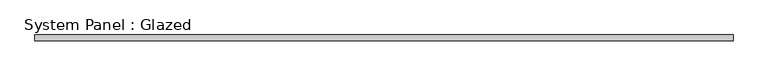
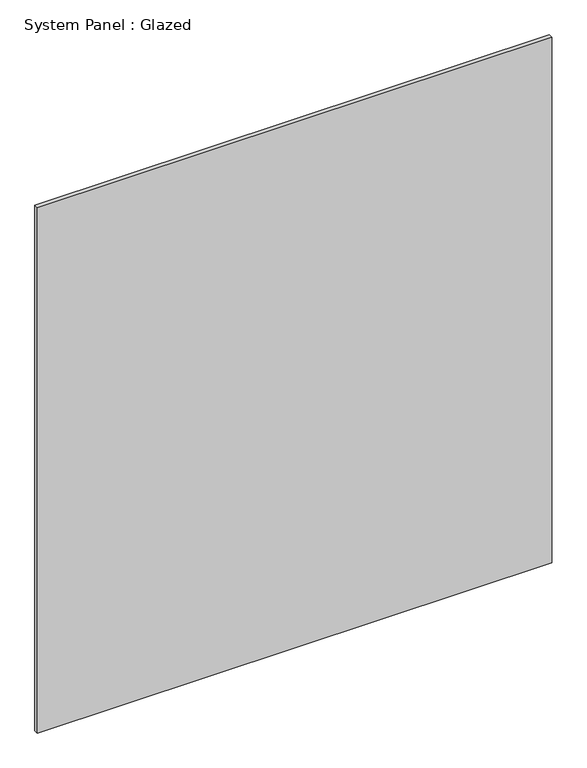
"""IFC4 building model written with IfcOpenShell, lengths in millimetres: plate geometry, System Panel : Glazed."""

from ifc_helpers import new_model, si_unit, origin, origin_with_axes, place, context, project, spatial, polyline, outline, extrude, source, transform, mapped, element, save


def system_panel_glazed_66c44f38(model_context):
    return source(origin(), model_context, "Body", "SweptSolid", [
        extrude(outline(polyline([(1447.5, -49.5), (-1447.5, -49.5), (-1447.5, -24.5), (1447.5, -24.5), (1447.5, -49.5)])), origin_with_axes(), (0.0, 0.0, 1.0), 3125.0),
    ])


if __name__ == "__main__":
    model = new_model("IFC4")
    model_context = context("Model", 3, world=origin())
    ifc_project = project(units=[si_unit("LENGTHUNIT", "METRE", prefix="MILLI")], contexts=[model_context])
    site = spatial("IfcSite", under=ifc_project)
    building = spatial("IfcBuilding", under=site)
    placement = place(None, origin())
    system_panel_glazed_shape = system_panel_glazed_66c44f38(model_context)
    element("IfcPlate", 1, ObjectType="System Panel : Glazed", at=placement, inside=building, context=model_context, shape_type="MappedRepresentation", body=[
        mapped(system_panel_glazed_shape, transform((0.0, 0.0, 0.0), x_axis=(1.0, 0.0, 0.0), y_axis=(0.0, 1.0, 0.0), z_axis=(0.0, 0.0, 1.0))),
    ])
    save(model, "model.ifc")
